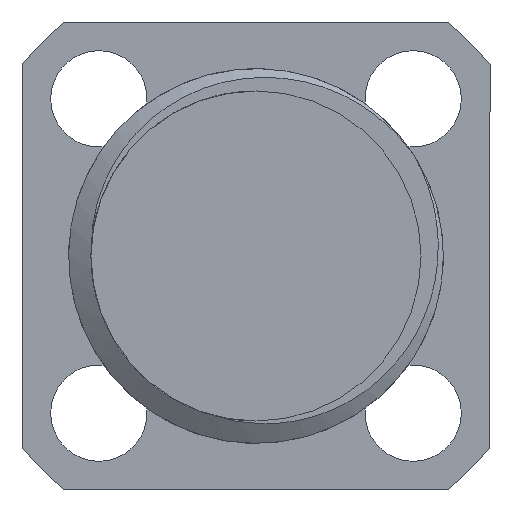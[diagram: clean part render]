
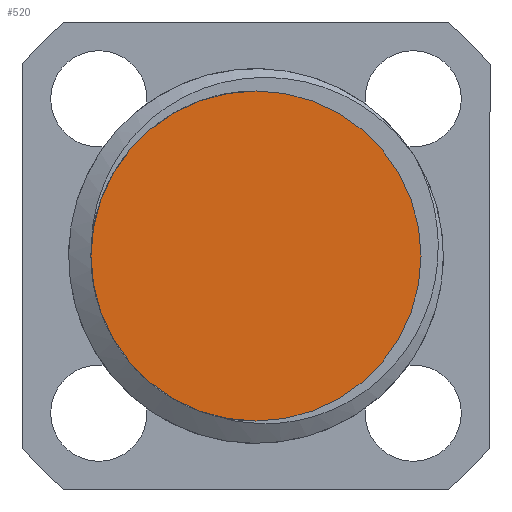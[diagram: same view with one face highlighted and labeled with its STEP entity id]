
A CAD part, left-side view. The second image highlights one B-rep face of the part: STEP entity #520.
In plain terms, the highlighted planar face has unit normal (-1, 0, 0).
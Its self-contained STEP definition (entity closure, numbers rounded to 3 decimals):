
#16 = ORIENTED_EDGE ( 'NONE', *, *, #1422, .T. ) ;
#58 = CIRCLE ( 'NONE', #622, 6. ) ;
#124 = AXIS2_PLACEMENT_3D ( 'NONE', #524, #1857, #142 ) ;
#142 = DIRECTION ( 'NONE',  ( 0., 0., 1. ) ) ;
#298 = DIRECTION ( 'NONE',  ( -1., 0., 0. ) ) ;
#442 = ORIENTED_EDGE ( 'NONE', *, *, #1854, .T. ) ;
#466 = CARTESIAN_POINT ( 'NONE',  ( 1.5, -5.25, 6. ) ) ;
#492 = AXIS2_PLACEMENT_3D ( 'NONE', #915, #298, #1023 ) ;
#520 = ADVANCED_FACE ( 'NONE', ( #753 ), #1028, .T. ) ;
#524 = CARTESIAN_POINT ( 'NONE',  ( 1.5, -5.25, 0. ) ) ;
#599 = DIRECTION ( 'NONE',  ( -1., 0., 0. ) ) ;
#622 = AXIS2_PLACEMENT_3D ( 'NONE', #1172, #599, #860 ) ;
#753 = FACE_OUTER_BOUND ( 'NONE', #1763, .T. ) ;
#857 = CARTESIAN_POINT ( 'NONE',  ( 1.5, -5.25, -6. ) ) ;
#860 = DIRECTION ( 'NONE',  ( 0., 0., 1. ) ) ;
#915 = CARTESIAN_POINT ( 'NONE',  ( 1.5, -5.25, 0. ) ) ;
#1023 = DIRECTION ( 'NONE',  ( 0., 0., 1. ) ) ;
#1028 = PLANE ( 'NONE',  #124 ) ;
#1172 = CARTESIAN_POINT ( 'NONE',  ( 1.5, -5.25, 0. ) ) ;
#1266 = CIRCLE ( 'NONE', #492, 6. ) ;
#1422 = EDGE_CURVE ( 'NONE', #2025, #1762, #1266, .T. ) ;
#1762 = VERTEX_POINT ( 'NONE', #466 ) ;
#1763 = EDGE_LOOP ( 'NONE', ( #442, #16 ) ) ;
#1854 = EDGE_CURVE ( 'NONE', #1762, #2025, #58, .T. ) ;
#1857 = DIRECTION ( 'NONE',  ( -1., 0., 0. ) ) ;
#2025 = VERTEX_POINT ( 'NONE', #857 ) ;
